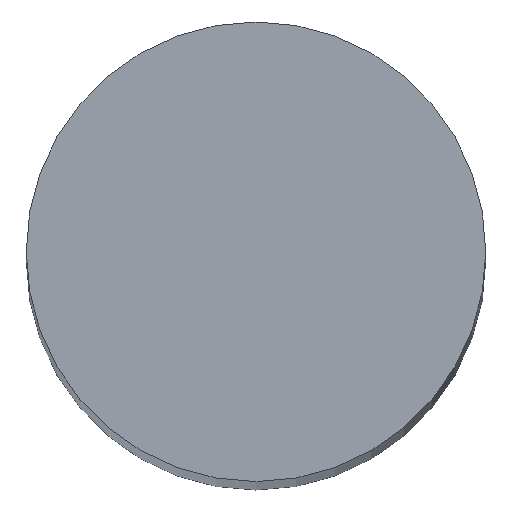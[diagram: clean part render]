
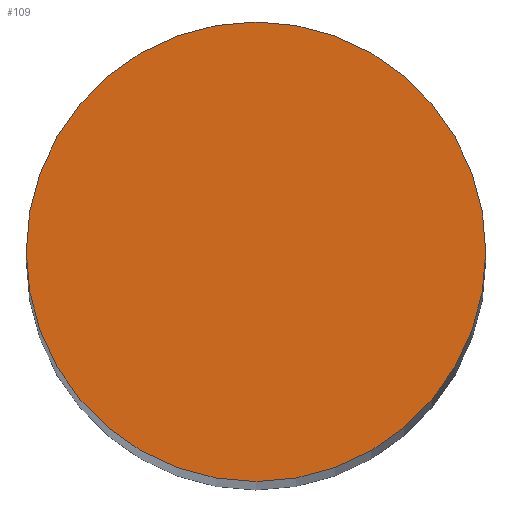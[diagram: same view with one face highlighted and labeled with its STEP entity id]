
A CAD part, top view. The second image highlights one B-rep face of the part: STEP entity #109.
In plain terms, the highlighted planar face has unit normal (0, 0, 1).
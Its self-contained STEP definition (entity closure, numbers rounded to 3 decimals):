
#24 = VERTEX_POINT('',#25);
#25 = CARTESIAN_POINT('',(5.,0.,105.));
#32 = CYLINDRICAL_SURFACE('',#33,5.);
#33 = AXIS2_PLACEMENT_3D('',#34,#35,#36);
#34 = CARTESIAN_POINT('',(0.,0.,0.));
#35 = DIRECTION('',(-0.,-0.,-1.));
#36 = DIRECTION('',(1.,0.,0.));
#51 = EDGE_CURVE('',#24,#24,#52,.T.);
#52 = SURFACE_CURVE('',#53,(#58,#65),.PCURVE_S1.);
#53 = CIRCLE('',#54,5.);
#54 = AXIS2_PLACEMENT_3D('',#55,#56,#57);
#55 = CARTESIAN_POINT('',(0.,0.,105.));
#56 = DIRECTION('',(0.,0.,1.));
#57 = DIRECTION('',(1.,0.,0.));
#58 = PCURVE('',#32,#59);
#59 = DEFINITIONAL_REPRESENTATION('',(#60),#64);
#60 = LINE('',#61,#62);
#61 = CARTESIAN_POINT('',(-0.,-105.));
#62 = VECTOR('',#63,1.);
#63 = DIRECTION('',(-1.,0.));
#64 = ( GEOMETRIC_REPRESENTATION_CONTEXT(2) 
PARAMETRIC_REPRESENTATION_CONTEXT() REPRESENTATION_CONTEXT('2D SPACE',''
  ) );
#65 = PCURVE('',#66,#71);
#66 = PLANE('',#67);
#67 = AXIS2_PLACEMENT_3D('',#68,#69,#70);
#68 = CARTESIAN_POINT('',(0.,0.,105.));
#69 = DIRECTION('',(0.,0.,1.));
#70 = DIRECTION('',(1.,0.,-0.));
#71 = DEFINITIONAL_REPRESENTATION('',(#72),#76);
#72 = CIRCLE('',#73,5.);
#73 = AXIS2_PLACEMENT_2D('',#74,#75);
#74 = CARTESIAN_POINT('',(0.,0.));
#75 = DIRECTION('',(1.,0.));
#76 = ( GEOMETRIC_REPRESENTATION_CONTEXT(2) 
PARAMETRIC_REPRESENTATION_CONTEXT() REPRESENTATION_CONTEXT('2D SPACE',''
  ) );
#109 = ADVANCED_FACE('',(#110),#66,.T.);
#110 = FACE_BOUND('',#111,.T.);
#111 = EDGE_LOOP('',(#112));
#112 = ORIENTED_EDGE('',*,*,#51,.T.);
